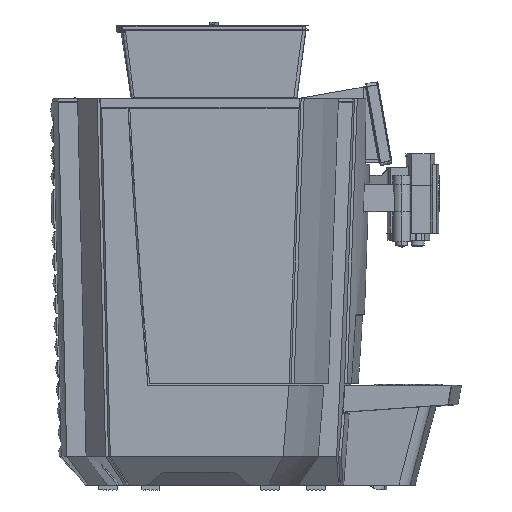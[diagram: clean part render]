
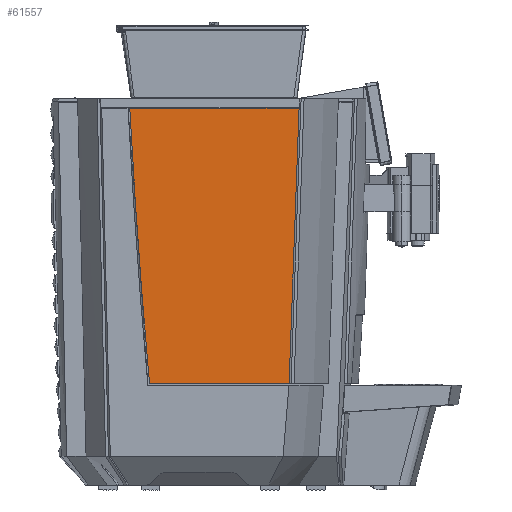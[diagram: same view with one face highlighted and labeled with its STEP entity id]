
A CAD part, left-side view. The second image highlights one B-rep face of the part: STEP entity #61557.
In plain terms, the highlighted planar face has unit normal (-1, 0, 0).
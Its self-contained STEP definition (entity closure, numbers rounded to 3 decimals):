
#5063 = VERTEX_POINT ( 'NONE', #88777 ) ;
#7261 = CARTESIAN_POINT ( 'NONE',  ( -243., -7665.346, 840.248 ) ) ;
#15997 = VECTOR ( 'NONE', #30823, 1000. ) ;
#16148 = DIRECTION ( 'NONE',  ( 0., 0., -1. ) ) ;
#18782 = CARTESIAN_POINT ( 'NONE',  ( -243., 80.065, 120. ) ) ;
#18825 = CARTESIAN_POINT ( 'NONE',  ( -243., 235.112, 120. ) ) ;
#24607 = AXIS2_PLACEMENT_3D ( 'NONE', #7261, #68954, #16148 ) ;
#30823 = DIRECTION ( 'NONE',  ( 0., 1., 0. ) ) ;
#33353 = ORIENTED_EDGE ( 'NONE', *, *, #73562, .T. ) ;
#39037 = VECTOR ( 'NONE', #70028, 1000. ) ;
#39721 = CARTESIAN_POINT ( 'NONE',  ( -243., -437.763, 425.5 ) ) ;
#43598 = PLANE ( 'NONE',  #110879 ) ;
#43853 = CARTESIAN_POINT ( 'NONE',  ( -243., 532.404, 120. ) ) ;
#43957 = CARTESIAN_POINT ( 'NONE',  ( -243., -437.763, 43.743 ) ) ;
#46125 = EDGE_LOOP ( 'NONE', ( #79480, #91895, #33353, #105092 ) ) ;
#52109 = CARTESIAN_POINT ( 'NONE',  ( -243., 76.379, 170.85 ) ) ;
#52481 = CARTESIAN_POINT ( 'NONE',  ( -243., 68.976, 374.516 ) ) ;
#52852 = DIRECTION ( 'NONE',  ( 1., 0., 0. ) ) ;
#61557 = ADVANCED_FACE ( 'NONE', ( #66924 ), #43598, .F. ) ;
#62474 = LINE ( 'NONE', #43853, #39037 ) ;
#62893 = LINE ( 'NONE', #39721, #15997 ) ;
#66603 = EDGE_CURVE ( 'NONE', #111135, #5063, #90562, .T. ) ;
#66924 = FACE_OUTER_BOUND ( 'NONE', #46125, .T. ) ;
#68774 = VERTEX_POINT ( 'NONE', #18825 ) ;
#68954 = DIRECTION ( 'NONE',  ( -1., 0., 0. ) ) ;
#70028 = DIRECTION ( 'NONE',  ( 0., 1., 0. ) ) ;
#73562 = EDGE_CURVE ( 'NONE', #105181, #68774, #84784, .T. ) ;
#79480 = ORIENTED_EDGE ( 'NONE', *, *, #66603, .T. ) ;
#84784 = CIRCLE ( 'NONE', #24607, 7933.22 ) ;
#88777 = CARTESIAN_POINT ( 'NONE',  ( -243., 68.966, 425.5 ) ) ;
#90562 = B_SPLINE_CURVE_WITH_KNOTS ( 'NONE', 3,
 ( #113845, #52109, #105302, #52481, #114210 ),
 .UNSPECIFIED., .F., .F.,
 ( 4, 1, 4 ),
 ( 0., 0.153, 0.306 ),
 .UNSPECIFIED. ) ;
#91895 = ORIENTED_EDGE ( 'NONE', *, *, #99429, .T. ) ;
#94506 = EDGE_CURVE ( 'NONE', #111135, #68774, #62474, .T. ) ;
#94588 = CARTESIAN_POINT ( 'NONE',  ( -243., 257.026, 425.5 ) ) ;
#99429 = EDGE_CURVE ( 'NONE', #5063, #105181, #62893, .T. ) ;
#105092 = ORIENTED_EDGE ( 'NONE', *, *, #94506, .F. ) ;
#105181 = VERTEX_POINT ( 'NONE', #94588 ) ;
#105302 = CARTESIAN_POINT ( 'NONE',  ( -243., 70.839, 272.616 ) ) ;
#110879 = AXIS2_PLACEMENT_3D ( 'NONE', #43957, #52852, #114567 ) ;
#111135 = VERTEX_POINT ( 'NONE', #18782 ) ;
#113845 = CARTESIAN_POINT ( 'NONE',  ( -243., 80.065, 120. ) ) ;
#114210 = CARTESIAN_POINT ( 'NONE',  ( -243., 68.966, 425.5 ) ) ;
#114567 = DIRECTION ( 'NONE',  ( 0., 0., -1. ) ) ;
